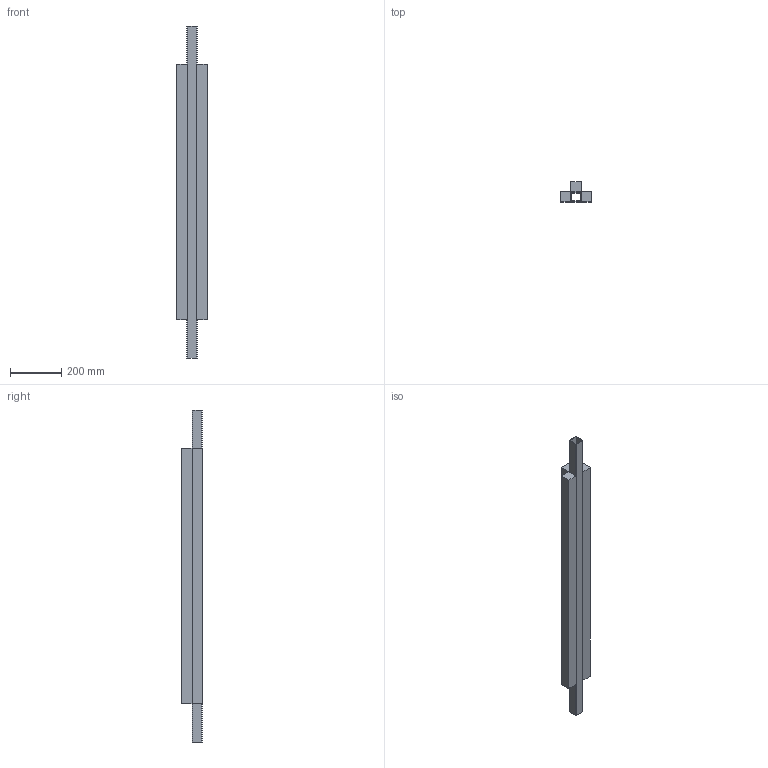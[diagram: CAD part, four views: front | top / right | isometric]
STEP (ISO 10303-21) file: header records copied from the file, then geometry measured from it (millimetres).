
FILE_DESCRIPTION (( 'STEP AP214' ), '1' );
FILE_NAME ('0005440_0_00.step', '2018-07-12T08:45:38', ( '' ), ( '' ), 'SwSTEP 2.0', 'SolidWorks 2018', '' );
FILE_SCHEMA (( 'AUTOMOTIVE_DESIGN' ));
Length unit declared in the file: millimetre
Products named in the file (3): 0005440_0_01_3 lame maxi L=1000; 0005440_0_02_3 lame maxi L=1000; 0005440_0_00
Assembly tree (2 placements, depth 2):
  0005440_0_00
    0005440_0_01_3 lame maxi L=1000
    0005440_0_02_3 lame maxi L=1000
Bounding box: 120 x 80 x 1300 mm (x, y, z)
Volume: 5546482.3 mm3; surface area: 865306 mm2
Topology: 2 solids, 2 shells, 32 faces, 84 edges, 56 vertices
Faces by surface type: plane 24, cylinder 8
Entity records: 1450 total; most frequent: CARTESIAN_POINT 177, DIRECTION 174, ORIENTED_EDGE 168, EDGE_CURVE 84, VECTOR 68, LINE 68, VERTEX_POINT 56, AXIS2_PLACEMENT_3D 53
